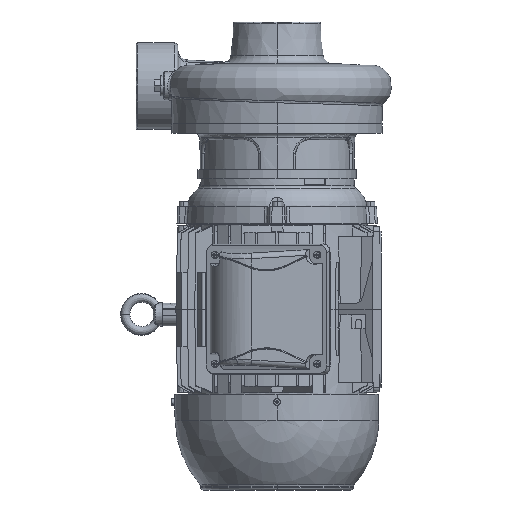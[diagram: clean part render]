
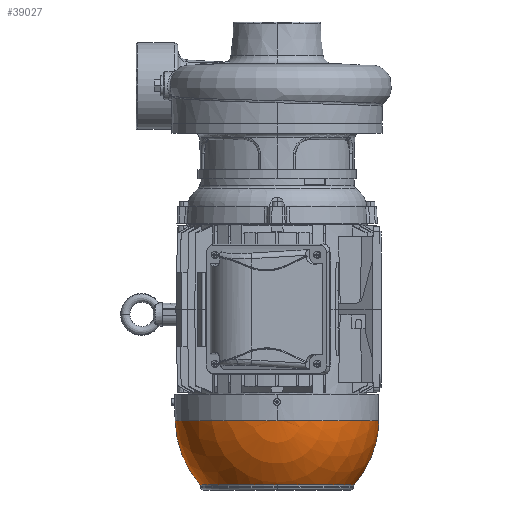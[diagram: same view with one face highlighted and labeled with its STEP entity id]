
A CAD part, left-side view. The second image highlights one B-rep face of the part: STEP entity #39027.
In plain terms, the highlighted spherical face has radius 109.545 mm.
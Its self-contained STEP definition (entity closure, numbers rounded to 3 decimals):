
#554 = DIRECTION ( 'NONE',  ( -1., 0., 0. ) ) ;
#1321 = EDGE_CURVE ( 'NONE', #48233, #47637, #14581, .T. ) ;
#3407 = CARTESIAN_POINT ( 'NONE',  ( -109.507, 0., -119.418 ) ) ;
#3827 = DIRECTION ( 'NONE',  ( 0., 0., 1. ) ) ;
#4175 = DIRECTION ( 'NONE',  ( 0., 0., -1. ) ) ;
#6877 = CARTESIAN_POINT ( 'NONE',  ( 0., 0., -188.234 ) ) ;
#8960 = DIRECTION ( 'NONE',  ( -1., 0., 0. ) ) ;
#10471 = DIRECTION ( 'NONE',  ( 1., 0., 0. ) ) ;
#10858 = EDGE_CURVE ( 'NONE', #63546, #35687, #26262, .T. ) ;
#11827 = CARTESIAN_POINT ( 'NONE',  ( 0., 0., -119.418 ) ) ;
#12735 = AXIS2_PLACEMENT_3D ( 'NONE', #11827, #52522, #554 ) ;
#13207 = ORIENTED_EDGE ( 'NONE', *, *, #57595, .T. ) ;
#13772 = CARTESIAN_POINT ( 'NONE',  ( 0., 0., -116.55 ) ) ;
#14581 = CIRCLE ( 'NONE', #20049, 109.545 ) ;
#17069 = AXIS2_PLACEMENT_3D ( 'NONE', #13772, #8960, #3827 ) ;
#17128 = CIRCLE ( 'NONE', #12735, 109.507 ) ;
#17186 = DIRECTION ( 'NONE',  ( -1., 0., 0. ) ) ;
#17321 = ORIENTED_EDGE ( 'NONE', *, *, #33259, .F. ) ;
#17702 = ORIENTED_EDGE ( 'NONE', *, *, #1321, .F. ) ;
#20049 = AXIS2_PLACEMENT_3D ( 'NONE', #37118, #10471, #62125 ) ;
#20402 = CIRCLE ( 'NONE', #43298, 11.444 ) ;
#21430 = ORIENTED_EDGE ( 'NONE', *, *, #10858, .F. ) ;
#22434 = CARTESIAN_POINT ( 'NONE',  ( 0., -82.833, -188.234 ) ) ;
#24802 = CARTESIAN_POINT ( 'NONE',  ( 0., 109.507, -119.418 ) ) ;
#25393 = DIRECTION ( 'NONE',  ( -1., 0., 0. ) ) ;
#25719 = CARTESIAN_POINT ( 'NONE',  ( 0., -108.945, -116.55 ) ) ;
#26262 = CIRCLE ( 'NONE', #53573, 82.833 ) ;
#26324 = AXIS2_PLACEMENT_3D ( 'NONE', #58472, #36966, #42750 ) ;
#27733 = FACE_OUTER_BOUND ( 'NONE', #36174, .T. ) ;
#27781 = DIRECTION ( 'NONE',  ( 0., 0., -1. ) ) ;
#29691 = VERTEX_POINT ( 'NONE', #63393 ) ;
#30866 = CARTESIAN_POINT ( 'NONE',  ( 0., 0., -188.234 ) ) ;
#32743 = ORIENTED_EDGE ( 'NONE', *, *, #63655, .T. ) ;
#33259 = EDGE_CURVE ( 'NONE', #47637, #63546, #33696, .T. ) ;
#33696 = CIRCLE ( 'NONE', #34761, 82.833 ) ;
#33766 = VERTEX_POINT ( 'NONE', #24802 ) ;
#34761 = AXIS2_PLACEMENT_3D ( 'NONE', #6877, #27781, #17186 ) ;
#35170 = CARTESIAN_POINT ( 'NONE',  ( 0., 0., -119.418 ) ) ;
#35687 = VERTEX_POINT ( 'NONE', #66782 ) ;
#36174 = EDGE_LOOP ( 'NONE', ( #17702, #65435, #13207, #54968, #32743, #21430, #17321 ) ) ;
#36966 = DIRECTION ( 'NONE',  ( 1., 0., 0. ) ) ;
#37118 = CARTESIAN_POINT ( 'NONE',  ( 0., 0., -116.55 ) ) ;
#39027 = ADVANCED_FACE ( 'NONE', ( #27733 ), #57819, .T. ) ;
#39998 = CIRCLE ( 'NONE', #17069, 109.545 ) ;
#40077 = DIRECTION ( 'NONE',  ( -1., 0., 0. ) ) ;
#42750 = DIRECTION ( 'NONE',  ( 0., 1., 0. ) ) ;
#43298 = AXIS2_PLACEMENT_3D ( 'NONE', #25719, #61963, #40077 ) ;
#47637 = VERTEX_POINT ( 'NONE', #22434 ) ;
#48233 = VERTEX_POINT ( 'NONE', #67503 ) ;
#49485 = CIRCLE ( 'NONE', #65861, 109.507 ) ;
#50879 = DIRECTION ( 'NONE',  ( -1., 0., 0. ) ) ;
#52522 = DIRECTION ( 'NONE',  ( 0., 0., -1. ) ) ;
#53432 = CARTESIAN_POINT ( 'NONE',  ( -82.833, 0., -188.234 ) ) ;
#53573 = AXIS2_PLACEMENT_3D ( 'NONE', #30866, #4175, #25393 ) ;
#54968 = ORIENTED_EDGE ( 'NONE', *, *, #64391, .T. ) ;
#56012 = DIRECTION ( 'NONE',  ( 0., 0., -1. ) ) ;
#57595 = EDGE_CURVE ( 'NONE', #29691, #64093, #49485, .T. ) ;
#57819 = SPHERICAL_SURFACE ( 'NONE', #26324, 109.545 ) ;
#58472 = CARTESIAN_POINT ( 'NONE',  ( 0., 0., -116.55 ) ) ;
#61963 = DIRECTION ( 'NONE',  ( 0., 1., 0. ) ) ;
#62125 = DIRECTION ( 'NONE',  ( 0., 1., 0. ) ) ;
#63393 = CARTESIAN_POINT ( 'NONE',  ( -11.079, -108.945, -119.418 ) ) ;
#63546 = VERTEX_POINT ( 'NONE', #53432 ) ;
#63655 = EDGE_CURVE ( 'NONE', #33766, #35687, #39998, .T. ) ;
#64093 = VERTEX_POINT ( 'NONE', #3407 ) ;
#64391 = EDGE_CURVE ( 'NONE', #64093, #33766, #17128, .T. ) ;
#65435 = ORIENTED_EDGE ( 'NONE', *, *, #66413, .T. ) ;
#65861 = AXIS2_PLACEMENT_3D ( 'NONE', #35170, #56012, #50879 ) ;
#66413 = EDGE_CURVE ( 'NONE', #48233, #29691, #20402, .T. ) ;
#66782 = CARTESIAN_POINT ( 'NONE',  ( 0., 82.833, -188.234 ) ) ;
#67503 = CARTESIAN_POINT ( 'NONE',  ( 0., -108.945, -127.994 ) ) ;
